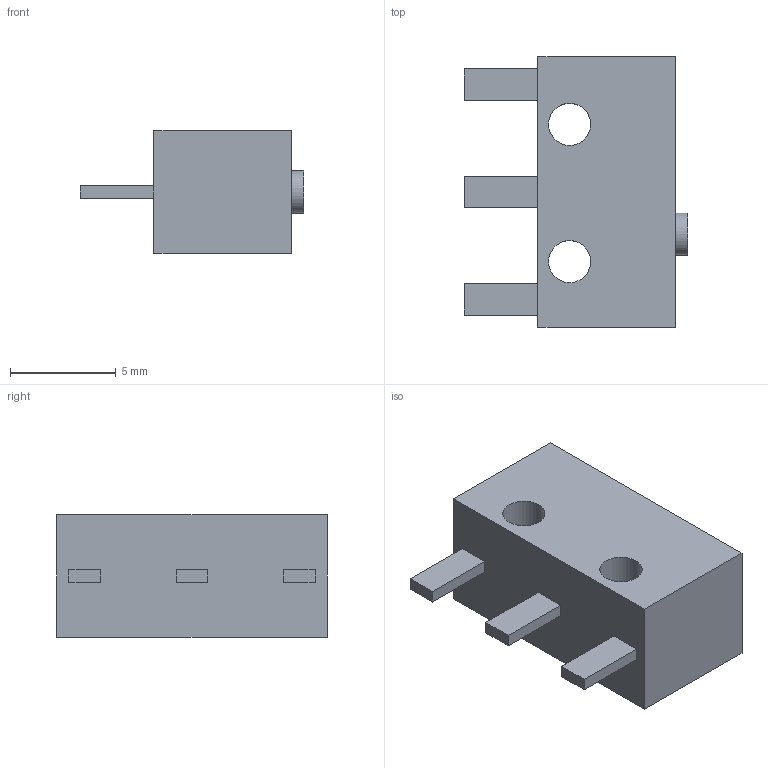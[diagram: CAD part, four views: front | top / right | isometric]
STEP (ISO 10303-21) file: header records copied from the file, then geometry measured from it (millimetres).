
FILE_DESCRIPTION(('Open CASCADE Model'),'2;1');
FILE_NAME('Open CASCADE Shape Model','2026-10-16T20:10:46',('Author'),( 'Open CASCADE'),'Open CASCADE STEP processor 7.9','Open CASCADE 7.9' ,'Unknown');
FILE_SCHEMA(('AUTOMOTIVE_DESIGN { 1 0 10303 214 1 1 1 1 }'));
Length unit declared in the file: millimetre
Products named in the file (1): Open CASCADE STEP translator 7.9 49
Bounding box: 10.6 x 12.8 x 5.8 mm (x, y, z)
Volume: 457.5 mm3; surface area: 498.5 mm2
Topology: 1 solids, 1 shells, 25 faces, 57 edges, 38 vertices
Faces by surface type: plane 22, cylinder 3
Full cylindrical faces by diameter (mm): 2 x3
Entity records: 1471 total; most frequent: CARTESIAN_POINT 265, DIRECTION 224, LINE 159, VECTOR 159, ORIENTED_EDGE 114, PCURVE 114, DEFINITIONAL_REPRESENTATION 114, EDGE_CURVE 57
